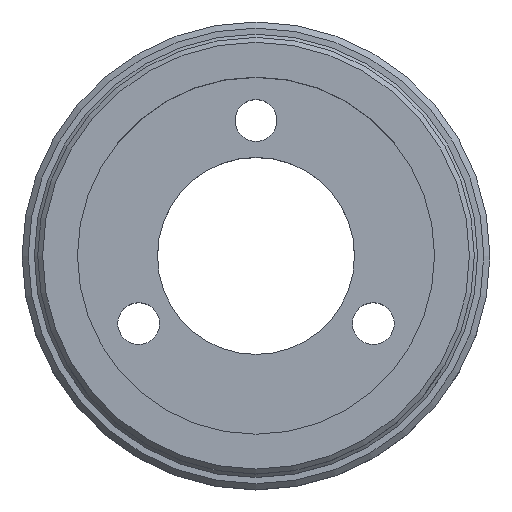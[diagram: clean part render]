
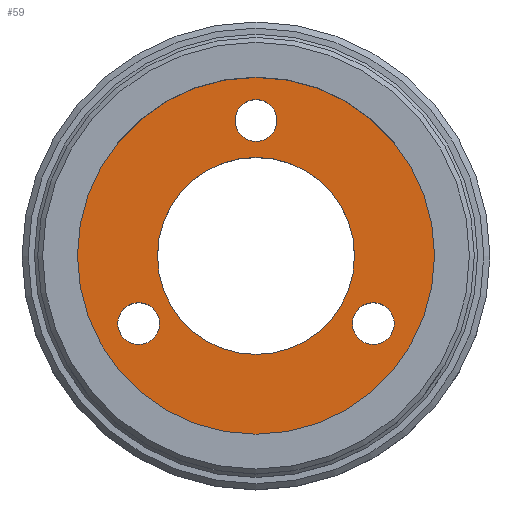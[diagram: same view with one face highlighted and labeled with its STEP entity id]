
A CAD part, top view. The second image highlights one B-rep face of the part: STEP entity #59.
In plain terms, the highlighted planar face has unit normal (0, 0, 1).
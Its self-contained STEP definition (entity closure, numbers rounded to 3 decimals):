
#52=PLANE('',#311);
#59=ADVANCED_FACE('',(#96,#97,#98,#99,#100),#52,.F.);
#96=FACE_BOUND('',#142,.T.);
#97=FACE_BOUND('',#143,.T.);
#98=FACE_BOUND('',#144,.T.);
#99=FACE_BOUND('',#145,.T.);
#100=FACE_BOUND('',#146,.T.);
#142=EDGE_LOOP('',(#188));
#143=EDGE_LOOP('',(#189));
#144=EDGE_LOOP('',(#190));
#145=EDGE_LOOP('',(#191));
#146=EDGE_LOOP('',(#192));
#188=ORIENTED_EDGE('',*,*,#256,.T.);
#189=ORIENTED_EDGE('',*,*,#257,.T.);
#190=ORIENTED_EDGE('',*,*,#258,.T.);
#191=ORIENTED_EDGE('',*,*,#255,.T.);
#192=ORIENTED_EDGE('',*,*,#259,.F.);
#232=VERTEX_POINT('',#446);
#233=VERTEX_POINT('',#449);
#234=VERTEX_POINT('',#451);
#235=VERTEX_POINT('',#453);
#236=VERTEX_POINT('',#455);
#255=EDGE_CURVE('',#232,#232,#278,.T.);
#256=EDGE_CURVE('',#233,#233,#279,.T.);
#257=EDGE_CURVE('',#234,#234,#280,.T.);
#258=EDGE_CURVE('',#235,#235,#281,.T.);
#259=EDGE_CURVE('',#236,#236,#282,.T.);
#278=CIRCLE('',#305,8.);
#279=CIRCLE('',#307,1.7);
#280=CIRCLE('',#308,1.7);
#281=CIRCLE('',#309,1.7);
#282=CIRCLE('',#310,14.5);
#305=AXIS2_PLACEMENT_3D('',#445,#364,#365);
#307=AXIS2_PLACEMENT_3D('',#448,#368,#369);
#308=AXIS2_PLACEMENT_3D('',#450,#370,#371);
#309=AXIS2_PLACEMENT_3D('',#452,#372,#373);
#310=AXIS2_PLACEMENT_3D('',#454,#374,#375);
#311=AXIS2_PLACEMENT_3D('',#456,#376,#377);
#364=DIRECTION('',(0.,0.,-1.));
#365=DIRECTION('',(-1.,0.,0.));
#368=DIRECTION('',(0.,0.,-1.));
#369=DIRECTION('',(-1.,0.,0.));
#370=DIRECTION('',(0.,0.,-1.));
#371=DIRECTION('',(-1.,0.,0.));
#372=DIRECTION('',(0.,0.,-1.));
#373=DIRECTION('',(-1.,0.,0.));
#374=DIRECTION('',(0.,0.,-1.));
#375=DIRECTION('',(-1.,0.,0.));
#376=DIRECTION('',(0.,0.,-1.));
#377=DIRECTION('',(-1.,0.,0.));
#445=CARTESIAN_POINT('',(0.,0.,7.5));
#446=CARTESIAN_POINT('',(-8.,0.,7.5));
#448=CARTESIAN_POINT('',(9.526,-5.5,7.5));
#449=CARTESIAN_POINT('',(7.826,-5.5,7.5));
#450=CARTESIAN_POINT('',(-9.526,-5.5,7.5));
#451=CARTESIAN_POINT('',(-11.226,-5.5,7.5));
#452=CARTESIAN_POINT('',(0.,11.,7.5));
#453=CARTESIAN_POINT('',(-1.7,11.,7.5));
#454=CARTESIAN_POINT('',(0.,0.,7.5));
#455=CARTESIAN_POINT('',(-14.5,0.,7.5));
#456=CARTESIAN_POINT('',(0.,0.,7.5));
